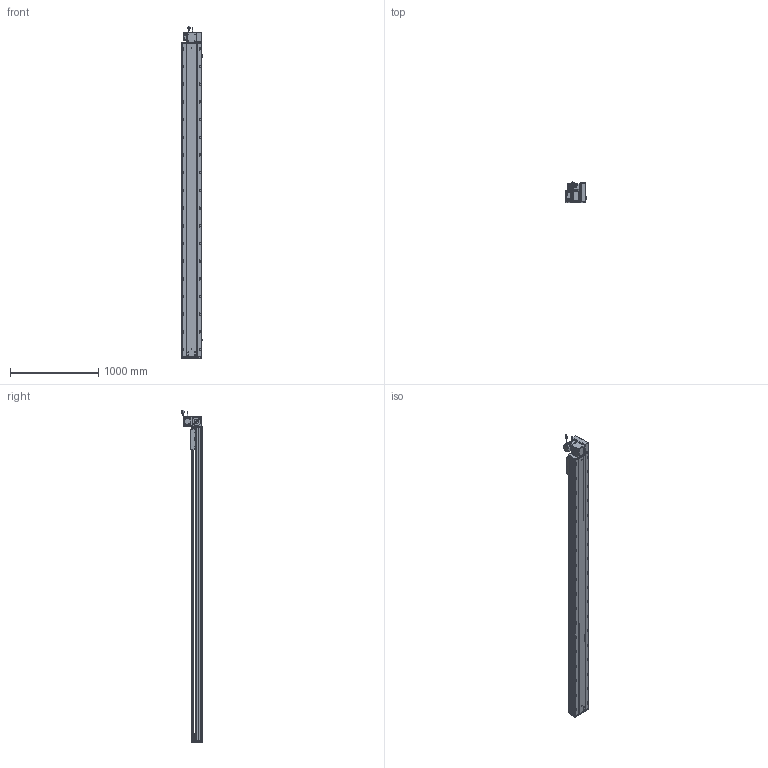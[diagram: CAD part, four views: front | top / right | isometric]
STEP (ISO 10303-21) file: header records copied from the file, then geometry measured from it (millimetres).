
FILE_DESCRIPTION (( 'STEP AP203' ), '1' );
FILE_NAME ('RY220-T-300-UR.SLDASM_3200.step', '2022-07-25T08:46:27', ( '' ), ( '' ), 'SwSTEP 2.0', 'SolidWorks 2016', '' );
FILE_SCHEMA (( 'CONFIG_CONTROL_DESIGN' ));
Length unit declared in the file: millimetre
Products named in the file (14): RY220-同步轮副支撑座6304×2; RY220-T-蛌殏萇儂假蚾啣(750W); RY220-俋离672覜茼んえ; 覜茼ん672; RY220-T菁釱-300_3200; RY220翋肮祭謫裔啣; RY220-T-湍謫欶(鍼踢); RY220圉猾敕々湍臏賑輸; RY220-T-300-UR.SLDASM_3200; 滅袉蝶18-15; RY220翋肮祭謫釱; 怢湛750W_ECMA-CX0807ES; RY220-T-300-奻裔啣_3200; 110A-T-肮祭謫釱傷裔
Assembly tree (18 placements, depth 2):
  RY220-T-300-UR.SLDASM_3200
    RY220-T菁釱-300_3200
    RY220翋肮祭謫釱
    覜茼ん672  x3
    RY220圉猾敕々湍臏賑輸
    RY220-T-300-奻裔啣_3200
    RY220-俋离672覜茼んえ
    滅袉蝶18-15  x3
    RY220翋肮祭謫裔啣  x2
    110A-T-肮祭謫釱傷裔
    怢湛750W_ECMA-CX0807ES
    RY220-T-湍謫欶(鍼踢)
    RY220-T-蛌殏萇儂假蚾啣(750W)
    RY220-同步轮副支撑座6304×2
Bounding box: 238.7 x 231.74 x 3753.27 mm (x, y, z)
Volume: 26499746.2 mm3; surface area: 8220495.6 mm2
Topology: 19 solids, 19 shells, 3066 faces, 8483 edges, 5302 vertices
Faces by surface type: cylinder 1522, plane 1069, cone 393, bspline 56, sphere 16, torus 10
Entity records: 102243 total; most frequent: CARTESIAN_POINT 28783, ORIENTED_EDGE 15162, DIRECTION 14688, EDGE_CURVE 7581, AXIS2_PLACEMENT_3D 5316, VERTEX_POINT 4926, LINE 4056, VECTOR 4056
